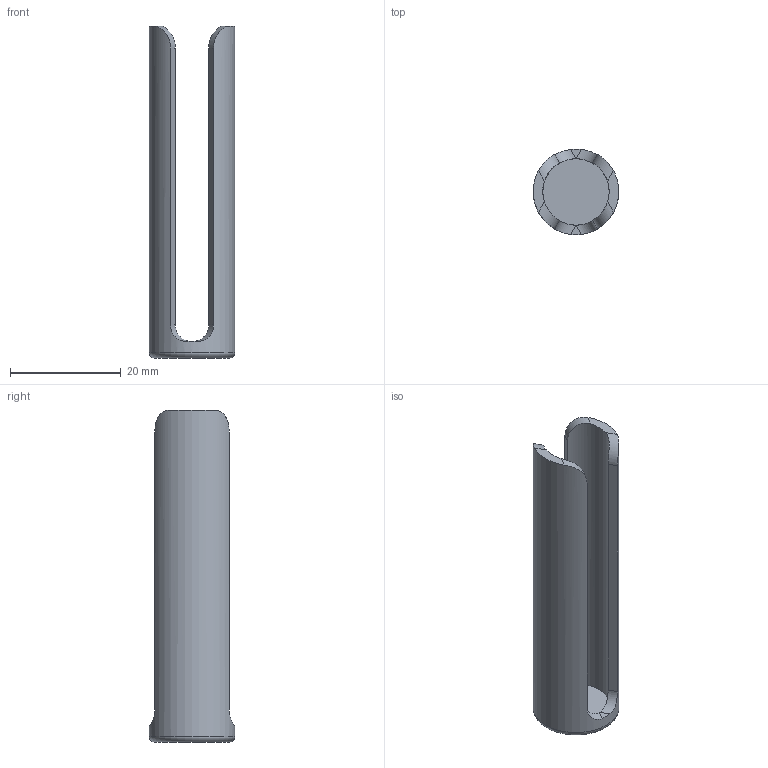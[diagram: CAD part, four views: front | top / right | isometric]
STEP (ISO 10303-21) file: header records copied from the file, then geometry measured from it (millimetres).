
FILE_DESCRIPTION(('STEP AP242'), '1');
FILE_NAME('öèëèíäðèê äëÿ LR44', '', ('UNSPECIFIED'), ('UNSPECIFIED'), 'C3D Converter', 'C3D Toolkit', '');
FILE_SCHEMA(('AP242_MANAGED_MODEL_BASED_3D_ENGINEERING_MIM_LF { 1 0 10303 442 1 1 4 }'));
Length unit declared in the file: millimetre
Bounding box: 15.5 x 15.5 x 60 mm (x, y, z)
Volume: 3299.2 mm3; surface area: 4182.4 mm2
Topology: 1 solids, 1 shells, 21 faces, 56 edges, 37 vertices
Faces by surface type: cylinder 10, plane 10, torus 1
Full cylindrical faces by diameter (mm): 12 x1, 15.5 x1
Entity records: 1688 total; most frequent: CARTESIAN_POINT 1152, ORIENTED_EDGE 106, DIRECTION 94, EDGE_CURVE 53, VERTEX_POINT 37, AXIS2_PLACEMENT_3D 35, EDGE_LOOP 24, LINE 24
